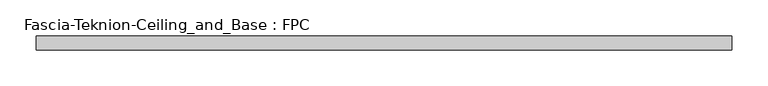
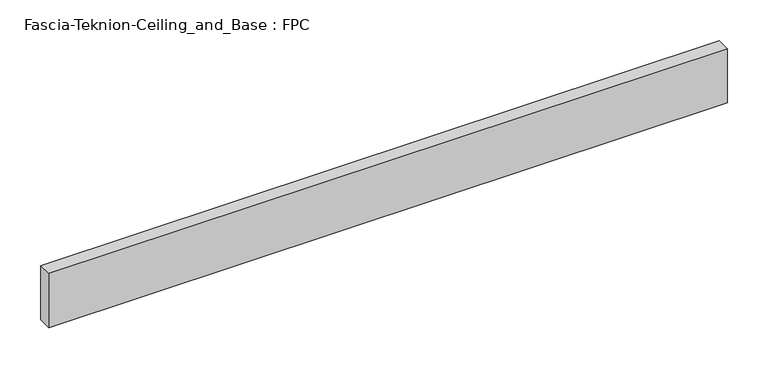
"""IFC4 building model written with IfcOpenShell, lengths in millimetres: proxy geometry, Fascia-Teknion-Ceiling_and_Base : FPC."""

from ifc_helpers import new_model, si_unit, origin, origin_with_axes, place, context, project, spatial, polyline, outline, extrude, source, transform, mapped, element, save


def fascia_teknion_ceiling_and_base_fpc_696d0f28(model_context):
    return source(origin(), model_context, "Body", "SweptSolid", [
        extrude(outline(polyline([(479.4305563, 0.0), (479.4305563, -19.05), (-479.4305562, -19.05), (-479.4305562, 0.0), (479.4305563, 0.0)])), origin_with_axes(), (0.0, 0.0, 1.0), 81.28),
    ])


if __name__ == "__main__":
    model = new_model("IFC4")
    model_context = context("Model", 3, world=origin())
    ifc_project = project(units=[si_unit("LENGTHUNIT", "METRE", prefix="MILLI")], contexts=[model_context])
    site = spatial("IfcSite", under=ifc_project)
    building = spatial("IfcBuilding", under=site)
    placement = place(None, origin())
    fascia_teknion_ceiling_and_base_fpc_shape = fascia_teknion_ceiling_and_base_fpc_696d0f28(model_context)
    element("IfcBuildingElementProxy", 1, Name="Fascia-Teknion-Ceiling_and_Base : FPC", ObjectType="Fascia-Teknion-Ceiling_and_Base : FPC", at=placement, inside=building, context=model_context, shape_type="MappedRepresentation", body=[
        mapped(fascia_teknion_ceiling_and_base_fpc_shape, transform((0.0, 0.0, 0.0), x_axis=(1.0, 0.0, 0.0), y_axis=(0.0, 1.0, 0.0), z_axis=(0.0, 0.0, 1.0))),
    ])
    save(model, "model.ifc")
